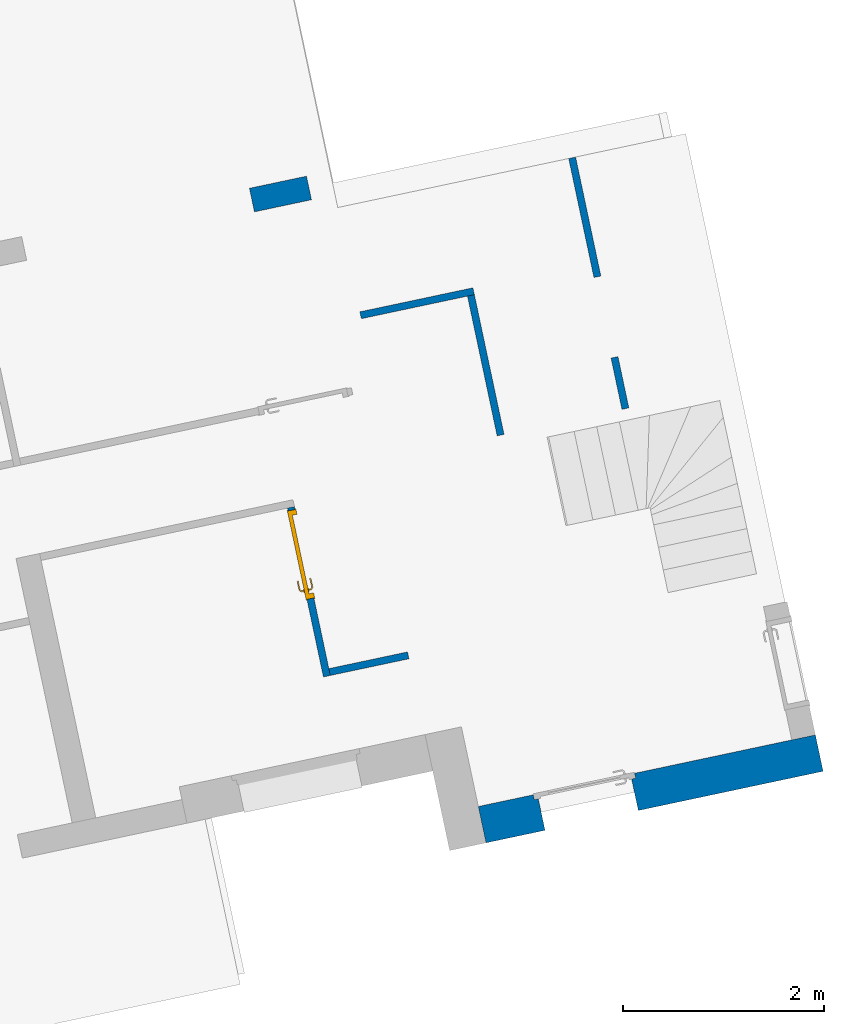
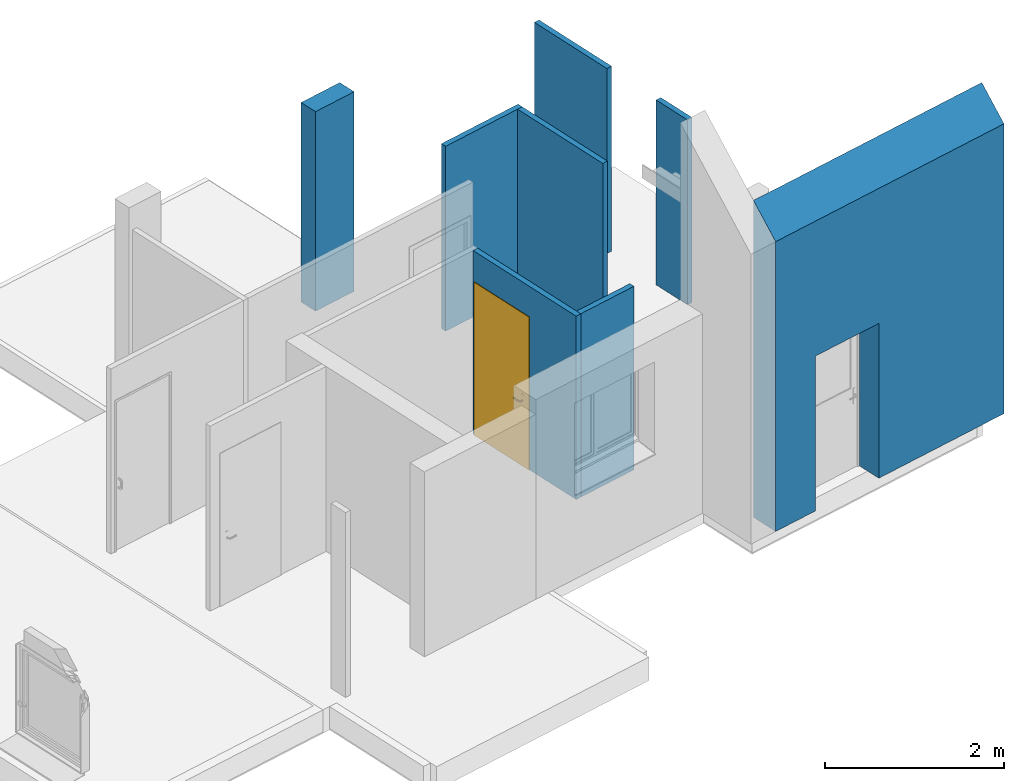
# One storey, part 4 of 11: 8 walls, 1 door, 2 openings.
"""IFC2X3 building model written with IfcOpenShell, lengths in centimetres."""

from ifc_helpers import new_model, entity, si_unit, converted_unit, derived_unit, direction, frame, frame_2d, origin, place, context, subcontext, project, spatial, polyline, rectangle, extrude, clip, bounded_halfspace, faceted_brep, source, transform, mapped, material, layer, layer_set, layer_usage, type_object, type_shapes, element, fill, save


model = new_model("IFC2X3")

# Units and contexts
model_context = context("Model", 3, precision=0.001, world=origin(), true_north=direction((6.12303176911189e-17, 1.0)))
body_context = subcontext(model_context, "Body", "Model", "MODEL_VIEW")
ifc_project = project(units=[si_unit("LENGTHUNIT", "METRE", prefix="CENTI"), si_unit("AREAUNIT", "SQUARE_METRE"), si_unit("VOLUMEUNIT", "CUBIC_METRE"), converted_unit("PLANEANGLEUNIT", "DEGREE", entity("IfcRatioMeasure", 0.0174532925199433), si_unit("PLANEANGLEUNIT", "RADIAN"), dimensions=[0, 0, 0, 0, 0, 0, 0]), si_unit("MASSUNIT", "GRAM", prefix="KILO"), derived_unit("MASSDENSITYUNIT", [(si_unit("MASSUNIT", "GRAM", prefix="KILO"), 1), (si_unit("LENGTHUNIT", "METRE"), -3)]), derived_unit("IONCONCENTRATIONUNIT", [(si_unit("MASSUNIT", "GRAM", prefix="KILO"), 1), (si_unit("LENGTHUNIT", "METRE"), -3)]), derived_unit("MOMENTOFINERTIAUNIT", [(si_unit("LENGTHUNIT", "METRE"), 4)]), si_unit("TIMEUNIT", "SECOND"), si_unit("FREQUENCYUNIT", "HERTZ"), si_unit("THERMODYNAMICTEMPERATUREUNIT", "DEGREE_CELSIUS"), derived_unit("THERMALTRANSMITTANCEUNIT", [(si_unit("MASSUNIT", "GRAM", prefix="KILO"), 1), (si_unit("THERMODYNAMICTEMPERATUREUNIT", "KELVIN"), -1), (si_unit("TIMEUNIT", "SECOND"), -3)]), derived_unit("THERMALCONDUCTANCEUNIT", [(si_unit("MASSUNIT", "GRAM", prefix="KILO"), 1), (si_unit("THERMODYNAMICTEMPERATUREUNIT", "KELVIN"), -1), (si_unit("TIMEUNIT", "SECOND"), -3), (si_unit("LENGTHUNIT", "METRE"), 1)]), derived_unit("VOLUMETRICFLOWRATEUNIT", [(si_unit("LENGTHUNIT", "METRE"), 3), (si_unit("TIMEUNIT", "SECOND"), -1)]), derived_unit("MASSFLOWRATEUNIT", [(si_unit("MASSUNIT", "GRAM", prefix="KILO"), 1), (si_unit("TIMEUNIT", "SECOND"), -1)]), derived_unit("ROTATIONALFREQUENCYUNIT", [(si_unit("TIMEUNIT", "SECOND"), -1)]), si_unit("ELECTRICCURRENTUNIT", "AMPERE"), si_unit("ELECTRICVOLTAGEUNIT", "VOLT"), si_unit("POWERUNIT", "WATT"), si_unit("FORCEUNIT", "NEWTON", prefix="KILO"), si_unit("ILLUMINANCEUNIT", "LUX"), si_unit("LUMINOUSFLUXUNIT", "LUMEN"), si_unit("LUMINOUSINTENSITYUNIT", "CANDELA"), derived_unit("USERDEFINED", [(si_unit("MASSUNIT", "GRAM", prefix="KILO"), -1), (si_unit("LENGTHUNIT", "METRE"), -2), (si_unit("TIMEUNIT", "SECOND"), 3), (si_unit("LUMINOUSFLUXUNIT", "LUMEN"), 1)]), derived_unit("USERDEFINED", [(si_unit("MASSUNIT", "GRAM", prefix="KILO"), 1), (si_unit("TIMEUNIT", "SECOND"), -3), (si_unit("LENGTHUNIT", "METRE"), 3), (si_unit("ELECTRICCURRENTUNIT", "AMPERE"), -2)]), derived_unit("SOUNDPOWERUNIT", [(si_unit("MASSUNIT", "GRAM", prefix="KILO"), 1), (si_unit("TIMEUNIT", "SECOND"), -3), (si_unit("LENGTHUNIT", "METRE"), 2)]), derived_unit("SOUNDPRESSUREUNIT", [(si_unit("MASSUNIT", "GRAM", prefix="KILO"), 1), (si_unit("LENGTHUNIT", "METRE"), -1), (si_unit("TIMEUNIT", "SECOND"), -2)]), derived_unit("LINEARVELOCITYUNIT", [(si_unit("LENGTHUNIT", "METRE"), 1), (si_unit("TIMEUNIT", "SECOND"), -1)]), si_unit("PRESSUREUNIT", "PASCAL"), derived_unit("USERDEFINED", [(si_unit("MASSUNIT", "GRAM", prefix="KILO"), 1), (si_unit("LENGTHUNIT", "METRE"), -2), (si_unit("TIMEUNIT", "SECOND"), -2)]), derived_unit("LINEARFORCEUNIT", [(si_unit("MASSUNIT", "GRAM", prefix="KILO"), 1), (si_unit("TIMEUNIT", "SECOND"), -2)]), derived_unit("PLANARFORCEUNIT", [(si_unit("MASSUNIT", "GRAM", prefix="KILO"), 1), (si_unit("LENGTHUNIT", "METRE"), -1), (si_unit("TIMEUNIT", "SECOND"), -2)]), derived_unit("SPECIFICHEATCAPACITYUNIT", [(si_unit("THERMODYNAMICTEMPERATUREUNIT", "KELVIN"), -1), (si_unit("LENGTHUNIT", "METRE"), 2), (si_unit("TIMEUNIT", "SECOND"), -2)]), derived_unit("HEATINGVALUEUNIT", [(si_unit("LENGTHUNIT", "METRE"), 2), (si_unit("TIMEUNIT", "SECOND"), -2)]), derived_unit("VAPORPERMEABILITYUNIT", [(si_unit("LENGTHUNIT", "METRE"), -1), (si_unit("TIMEUNIT", "SECOND"), 1)]), derived_unit("DYNAMICVISCOSITYUNIT", [(si_unit("MASSUNIT", "GRAM", prefix="KILO"), 1), (si_unit("TIMEUNIT", "SECOND"), -1), (si_unit("LENGTHUNIT", "METRE"), -1)]), derived_unit("THERMALEXPANSIONCOEFFICIENTUNIT", [(si_unit("THERMODYNAMICTEMPERATUREUNIT", "KELVIN"), -1)]), derived_unit("MODULUSOFELASTICITYUNIT", [(si_unit("MASSUNIT", "GRAM", prefix="KILO"), 1), (si_unit("LENGTHUNIT", "METRE"), -1), (si_unit("TIMEUNIT", "SECOND"), -2)]), derived_unit("ISOTHERMALMOISTURECAPACITYUNIT", [(si_unit("LENGTHUNIT", "METRE"), 3), (si_unit("MASSUNIT", "GRAM", prefix="KILO"), -1)]), derived_unit("MOISTUREDIFFUSIVITYUNIT", [(si_unit("TIMEUNIT", "SECOND"), -1), (si_unit("LENGTHUNIT", "METRE"), 2)])], contexts=[model_context])

# Site, building, storey
site_placement = place(None, frame((14083.8920177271, -6853.25409548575, 6900.0), z_axis=(0.0, 0.0, 1.0), x_axis=(0.978188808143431, 0.207717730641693, 0.0)))
site = spatial("IfcSite", under=ifc_project, at=site_placement, Name="Surface", CompositionType="ELEMENT")
building_placement = place(site_placement, origin())
building = spatial("IfcBuilding", under=site, at=building_placement, CompositionType="ELEMENT")
storey_placement = place(building_placement, frame((0.0, 0.0, 17.0)))
storey = spatial("IfcBuildingStorey", under=building, at=storey_placement, Name="Rez de chaussée", CompositionType="ELEMENT", Elevation=17.0000000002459)

# Wall
ifc_material_1 = material(Name="__ ENDUIT_Blanc")
ifc_layer_1 = layer(ifc_material_1, 2.0)
ifc_material_2 = material(Name="Béton, précoulé")
ifc_layer_2 = layer(ifc_material_2, 20.0)
ifc_layer_3 = layer(ifc_material_1, 2.0)
ifc_layer_set_1 = layer_set([ifc_layer_1, ifc_layer_2, ifc_layer_3], Name="Mur de base:*BRIQUE 24 (20 + INT 2 + EXT 2) (enduit 2 faces)")
ifc_layer_usage_1 = layer_usage(ifc_layer_set_1, "AXIS2", "NEGATIVE", 12.0)
wall_type_1 = type_object("IfcWallType", Name="Mur de base:*BRIQUE 24 (20 + INT 2 + EXT 2) (enduit 2 faces)", PredefinedType="STANDARD", material=ifc_layer_set_1)
wall_1_placement = place(storey_placement, frame((-7221.9551432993, 15438.9391445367, 0.0)))
element("IfcWallStandardCase", 1, at=wall_1_placement, inside=storey, type_object=wall_type_1, material=ifc_layer_usage_1, Name="Mur de base:*BRIQUE 24 (20 + INT 2 + EXT 2) (enduit 2 faces)", ObjectType="Mur de base:*BRIQUE 24 (20 + INT 2 + EXT 2) (enduit 2 faces)", context=body_context, shape_type="SweptSolid", body=[
    extrude(rectangle(XDim=57.9999999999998, YDim=24.0000000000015, at=frame_2d((28.9999999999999, 0.0), x_axis=(-1.0, 0.0))), origin(), (0.0, 0.0, 1.0), 271.999999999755),
])

# Wall, opening, door
ifc_material_3 = material(Name="__ BA 13")
ifc_layer_4 = layer(ifc_material_3, 7.0)
ifc_layer_set_2 = layer_set([ifc_layer_4], Name="Mur de base:*Cloison 72/48 cm")
ifc_layer_usage_2 = layer_usage(ifc_layer_set_2, "AXIS2", "NEGATIVE", 3.5)
wall_type_2 = type_object("IfcWallType", Name="Mur de base:*Cloison 72/48 cm", PredefinedType="STANDARD", material=ifc_layer_set_2)
wall_2_placement = place(storey_placement, frame((-7247.4551432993, 15131.6724778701, 0.0), z_axis=(0.0, 0.0, 1.0), x_axis=(0.0, -1.0, 0.0)))
wall_2 = element("IfcWallStandardCase", 2, at=wall_2_placement, inside=storey, type_object=wall_type_2, material=ifc_layer_usage_2, Name="Mur de base:*Cloison 72/48 cm", ObjectType="Mur de base:*Cloison 72/48 cm", context=body_context, shape_type="SweptSolid", body=[
    extrude(rectangle(XDim=171.846846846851, YDim=7.00000000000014, at=frame_2d((85.9234234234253, 0.0), x_axis=(1.0, 0.0))), origin(), (0.0, 0.0, 1.0), 250.0),
])
opening_1_placement = place(wall_2_placement, frame((92.9234234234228, 3.5, 0.0)))
opening_1 = element("IfcOpeningElement", 3, at=opening_1_placement, cuts=wall_2, Name="*Porte_alveolaire:Pp 83 x 204:1", ObjectType="Opening", context=body_context, shape_type="SweptSolid", body=[
    extrude(rectangle(XDim=207.5, YDim=89.9999999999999, at=frame_2d((103.75, 45.0), x_axis=(1.0, 0.0))), frame((0.0, 0.0, 0.0), z_axis=(0.0, -1.0, 0.0), x_axis=(0.0, 0.0, 1.0)), (0.0, 0.0, 1.0), 7.0),
])
ifc_material_4 = material(Name="<Unnamed>")
door_style = type_object("IfcDoorStyle", Name="*Porte_alveolaire:Pp 83 x 204", ConstructionType="NOTDEFINED", OperationType="NOTDEFINED", ParameterTakesPrecedence=False, Sizeable=False, material=ifc_material_4)
shared_shape = source(origin(), body_context, "Body", "Brep", [
    faceted_brep([(81.2025298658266, 3.69990393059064, 90.7780440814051), (80.7974701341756, 3.69990393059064, 90.7780440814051), (80.3999999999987, 3.69990393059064, 90.699999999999), (80.3999999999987, 3.69990393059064, 89.300000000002), (80.7974701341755, 3.69990393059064, 89.221955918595), (81.2025298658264, 3.69990393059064, 89.2219559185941), (81.6000000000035, 3.69990393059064, 89.2999999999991), (81.6000000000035, 3.69990393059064, 90.699999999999), (80.3999999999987, 5.94842438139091, 90.699999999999), (80.3999999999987, 5.94842438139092, 89.300000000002), (80.7974701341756, 6.11306190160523, 90.7780440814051), (81.2025298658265, 6.28084313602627, 90.7780440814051), (79.5838906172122, 7.89948238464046, 90.7780440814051), (79.4161093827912, 7.49442265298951, 90.7780440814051), (71.079312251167, 7.49442265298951, 90.7780440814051), (70.911531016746, 7.89948238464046, 90.7780440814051), (70.1451046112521, 7.13305597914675, 90.7780440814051), (70.431525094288, 6.84663549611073, 90.7780440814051), (81.6000000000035, 6.44548065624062, 90.699999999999), (81.6000000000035, 6.44548065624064, 89.2999999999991), (81.2025298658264, 6.28084313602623, 89.2219559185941), (80.7974701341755, 6.1130619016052, 89.221955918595), (79.4161093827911, 7.49442265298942, 89.221955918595), (79.5838906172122, 7.89948238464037, 89.2219559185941), (70.911531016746, 7.89948238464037, 89.221955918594), (71.079312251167, 7.49442265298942, 89.221955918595), (70.4315250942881, 6.84663549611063, 89.221955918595), (70.1451046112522, 7.13305597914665, 89.221955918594), (79.2514718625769, 7.09695251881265, 89.300000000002), (79.2514718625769, 7.09695251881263, 90.699999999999), (79.7485281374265, 8.29695251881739, 90.699999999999), (79.7485281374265, 8.29695251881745, 89.2999999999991), (75.2477108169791, 7.0969525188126, 90.699999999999), (71.2439497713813, 7.09695251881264, 90.699999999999), (71.2439497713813, 7.09695251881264, 89.300000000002), (75.2477108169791, 7.09695251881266, 89.300000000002), (75.247710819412, 7.71239668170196, 90.7878116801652), (74.7399422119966, 8.29695251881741, 90.699999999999), (70.7468934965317, 8.29695251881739, 90.699999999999), (75.7554791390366, 8.29695251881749, 89.2999999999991), (70.7468934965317, 8.29695251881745, 89.2999999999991), (75.2477107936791, 7.71239667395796, 89.2121883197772), (69.8640507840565, 7.41410980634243, 90.699999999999), (69.8640507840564, 7.41410980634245, 89.2999999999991), (70.7125789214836, 6.56558166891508, 89.300000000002), (70.7125789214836, 6.56558166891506, 90.699999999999)], [[[0, 1, 2, 3, 4, 5, 6, 7]], [[8, 9, 3, 2]], [[1, 10, 8, 2]], [[1, 0, 11, 12, 13, 10]], [[14, 15, 16, 17]], [[7, 18, 11, 0]], [[18, 7, 6, 19]], [[6, 5, 20, 19]], [[5, 4, 21, 22, 23, 20]], [[24, 25, 26, 27]], [[4, 3, 9, 21]], [[28, 9, 8, 29]], [[8, 10, 13, 29]], [[18, 30, 12, 11]], [[31, 30, 18, 19]], [[19, 20, 23, 31]], [[21, 9, 28, 22]], [[28, 29, 32, 33, 34, 35]], [[36, 32, 13]], [[37, 38, 15]], [[37, 12, 30]], [[36, 12, 37]], [[14, 32, 36]], [[36, 15, 14]], [[29, 13, 32]], [[32, 14, 33]], [[12, 36, 13]], [[15, 36, 37]], [[30, 31, 39, 40, 38, 37]], [[23, 41, 39]], [[24, 39, 41]], [[39, 31, 23]], [[39, 24, 40]], [[22, 35, 41]], [[41, 23, 22]], [[41, 35, 25]], [[35, 22, 28]], [[34, 25, 35]], [[24, 41, 25]], [[17, 16, 42, 43, 27, 26, 44, 45]], [[44, 34, 33, 45]], [[33, 14, 17, 45]], [[15, 38, 42, 16]], [[42, 38, 40, 43]], [[24, 27, 43, 40]], [[34, 44, 26, 25]]]),
    faceted_brep([(80.7974701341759, -1.30009606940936, 90.7780440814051), (81.2025298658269, -1.30009606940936, 90.7780440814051), (81.6000000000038, -1.30009606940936, 90.6999999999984), (81.6000000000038, -1.30009606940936, 89.2999999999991), (81.2025298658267, -1.30009606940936, 89.221955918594), (80.7974701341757, -1.30009606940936, 89.221955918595), (80.399999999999, -1.30009606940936, 89.3000000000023), (80.3999999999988, -1.30009606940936, 90.699999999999), (81.2025298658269, -3.90055361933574, 90.7780440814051), (81.600000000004, -4.06519113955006, 90.6999999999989), (80.7974701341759, -3.73277238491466, 90.7780440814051), (79.4298602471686, -5.10038227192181, 90.7780440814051), (79.5976414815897, -5.50544200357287, 90.7780440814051), (70.9142453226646, -5.50544200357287, 90.778044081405), (71.0820265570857, -5.10038227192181, 90.778044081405), (70.4342394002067, -4.45259511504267, 90.778044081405), (70.1478189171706, -4.73901559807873, 90.778044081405), (80.3999999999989, -3.56813486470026, 90.699999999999), (80.399999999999, -3.56813486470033, 89.3000000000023), (80.7974701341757, -3.73277238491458, 89.221955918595), (81.2025298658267, -3.90055361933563, 89.221955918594), (79.5976414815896, -5.5054420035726, 89.221955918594), (79.4298602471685, -5.10038227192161, 89.221955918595), (71.0820265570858, -5.10038227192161, 89.221955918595), (70.9142453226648, -5.50544200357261, 89.221955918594), (70.1478189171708, -4.73901559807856, 89.221955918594), (70.4342394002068, -4.45259511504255, 89.221955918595), (81.6000000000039, -4.06519113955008, 89.2999999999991), (79.7622790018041, -5.90291213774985, 90.6999999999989), (79.2652227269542, -4.70291213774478, 90.699999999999), (79.2652227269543, -4.70291213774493, 89.3000000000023), (79.762279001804, -5.90291213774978, 89.2999999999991), (75.2559433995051, -5.31837634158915, 90.7878115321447), (75.7692302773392, -5.90291213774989, 90.6999999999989), (70.7496078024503, -5.9029121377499, 90.6999999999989), (75.2559434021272, -4.70291213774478, 90.699999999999), (71.2466640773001, -4.70291213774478, 90.6999999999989), (75.2559436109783, -4.70291213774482, 89.3000000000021), (71.2466640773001, -4.70291213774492, 89.3000000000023), (75.2559434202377, -5.31837634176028, 89.2121884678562), (74.7426576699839, -5.90291213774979, 89.2999999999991), (70.7496078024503, -5.90291213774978, 89.2999999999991), (70.7152932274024, -4.17154128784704, 89.300000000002), (69.866765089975, -5.02006942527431, 89.2999999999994), (69.8667650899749, -5.02006942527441, 90.6999999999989), (70.7152932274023, -4.1715412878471, 90.6999999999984)], [[[0, 1, 2, 3, 4, 5, 6, 7]], [[2, 1, 8, 9]], [[1, 0, 10, 11, 12, 8]], [[13, 14, 15, 16]], [[0, 7, 17, 10]], [[18, 17, 7, 6]], [[5, 19, 18, 6]], [[5, 4, 20, 21, 22, 19]], [[23, 24, 25, 26]], [[3, 27, 20, 4]], [[9, 27, 3, 2]], [[9, 8, 12, 28]], [[10, 17, 29, 11]], [[30, 29, 17, 18]], [[18, 19, 22, 30]], [[20, 27, 31, 21]], [[28, 31, 27, 9]], [[12, 32, 33]], [[13, 33, 32]], [[33, 28, 12]], [[33, 13, 34]], [[11, 35, 32]], [[32, 12, 11]], [[32, 35, 14]], [[35, 11, 29]], [[36, 14, 35]], [[13, 32, 14]], [[30, 37, 38, 36, 35, 29]], [[39, 37, 22]], [[40, 41, 24]], [[40, 21, 31]], [[39, 21, 40]], [[23, 37, 39]], [[39, 24, 23]], [[30, 22, 37]], [[37, 23, 38]], [[21, 39, 22]], [[24, 39, 40]], [[31, 28, 33, 34, 41, 40]], [[42, 26, 25, 43, 44, 16, 15, 45]], [[13, 16, 44, 34]], [[36, 45, 15, 14]], [[42, 45, 36, 38]], [[38, 23, 26, 42]], [[24, 41, 43, 25]], [[44, 43, 41, 34]]]),
    faceted_brep([(83.0, 3.19990393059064, 77.0), (83.0, 3.19990393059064, 98.0), (82.0352761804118, 3.19990393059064, 98.3996016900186), (81.0, 3.19990393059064, 98.5358983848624), (79.9647238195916, 3.19990393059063, 98.3996016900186), (79.0, 3.19990393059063, 98.0), (79.0, 3.19990393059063, 77.0), (79.9647238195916, 3.19990393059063, 76.6003983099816), (81.0, 3.19990393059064, 76.4641016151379), (82.0352761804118, 3.19990393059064, 76.6003983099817), (81.0, 3.69990393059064, 98.5358983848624), (82.0352761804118, 3.69990393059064, 98.3996016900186), (83.0, 3.69990393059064, 98.0), (83.0, 3.69990393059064, 77.0), (82.0352761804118, 3.69990393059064, 76.6003983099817), (81.0, 3.69990393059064, 76.4641016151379), (79.9647238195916, 3.69990393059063, 76.6003983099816), (79.0, 3.69990393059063, 77.0), (79.0, 3.69990393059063, 98.0), (79.9647238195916, 3.69990393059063, 98.3996016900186)], [[[0, 1, 2, 3, 4, 5, 6, 7, 8, 9]], [[10, 11, 12, 13, 14, 15, 16, 17, 18, 19]], [[4, 19, 18, 5]], [[3, 10, 19, 4]], [[2, 11, 10, 3]], [[2, 1, 12, 11]], [[12, 1, 0, 13]], [[9, 14, 13, 0]], [[8, 15, 14, 9]], [[7, 16, 15, 8]], [[7, 6, 17, 16]], [[17, 6, 5, 18]]]),
    faceted_brep([(81.0, -1.30009606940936, 76.4641016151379), (82.0352761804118, -1.30009606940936, 76.6003983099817), (83.0, -1.30009606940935, 77.0), (83.0, -1.30009606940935, 98.0), (82.0352761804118, -1.30009606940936, 98.3996016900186), (81.0, -1.30009606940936, 98.5358983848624), (79.9647238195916, -1.30009606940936, 98.3996016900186), (79.0, -1.30009606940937, 98.0), (79.0, -1.30009606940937, 77.0), (79.9647238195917, -1.30009606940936, 76.6003983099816), (83.0, -0.800096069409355, 98.0), (83.0, -0.800096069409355, 77.0), (82.0352761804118, -0.800096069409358, 76.6003983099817), (81.0, -0.800096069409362, 76.4641016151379), (79.9647238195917, -0.800096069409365, 76.6003983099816), (79.0, -0.800096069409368, 77.0), (79.0, -0.800096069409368, 98.0), (79.9647238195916, -0.800096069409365, 98.3996016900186), (81.0, -0.800096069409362, 98.5358983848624), (82.0352761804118, -0.800096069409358, 98.3996016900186)], [[[0, 1, 2, 3, 4, 5, 6, 7, 8, 9]], [[10, 11, 12, 13, 14, 15, 16, 17, 18, 19]], [[1, 12, 11, 2]], [[0, 13, 12, 1]], [[9, 14, 13, 0]], [[9, 8, 15, 14]], [[15, 8, 7, 16]], [[6, 17, 16, 7]], [[5, 18, 17, 6]], [[4, 19, 18, 5]], [[4, 3, 10, 19]], [[10, 3, 2, 11]]]),
    faceted_brep([(90.0, -9.60694093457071e-05, 0.0), (91.0, -9.60694093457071e-05, 0.0), (91.0, -0.800096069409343, 0.0), (86.5000000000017, -0.800096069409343, 0.0), (86.5000000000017, 3.19990393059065, 0.0), (85.0, 3.19990393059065, 0.0), (85.0, 7.79990393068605, 0.0), (91.0, 7.79990393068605, 0.0), (91.0, 6.99990393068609, 0.0), (90.0, 6.99990393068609, 0.0), (90.0, 6.99990393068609, 207.5), (90.0, -9.60694093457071e-05, 207.5), (91.0, 6.99990393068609, 208.5), (-1.0, 6.99990393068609, 208.5), (-1.0, 6.99990393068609, 0.0), (0.0, 6.99990393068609, 0.0), (0.0, 6.99990393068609, 207.5), (91.0, 7.79990393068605, 208.5), (85.0, 7.79990393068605, 202.500000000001), (5.0, 7.79990393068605, 202.500000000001), (5.0, 7.79990393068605, 0.0), (-1.0, 7.79990393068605, 0.0), (-1.0, 7.79990393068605, 208.5), (85.0, 3.19990393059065, 202.500000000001), (86.5000000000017, 3.19990393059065, 204.0), (3.50000000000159, 3.19990393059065, 204.0), (3.50000000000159, 3.19990393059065, 0.0), (5.0, 3.19990393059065, 0.0), (5.0, 3.19990393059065, 202.500000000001), (86.5000000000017, -0.800096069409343, 204.0), (91.0, -0.800096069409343, 208.5), (-1.0, -0.800096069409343, 208.5), (-1.0, -0.800096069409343, 0.0), (3.50000000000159, -0.800096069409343, 0.0), (3.50000000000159, -0.800096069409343, 204.0), (91.0, -9.60694093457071e-05, 208.5), (0.0, -9.60694093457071e-05, 207.5), (0.0, -9.60694093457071e-05, 0.0), (-1.0, -9.60694093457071e-05, 0.0), (-1.0, -9.60694093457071e-05, 208.5)], [[[0, 1, 2, 3, 4, 5, 6, 7, 8, 9]], [[9, 10, 11, 0]], [[8, 12, 13, 14, 15, 16, 10, 9]], [[7, 17, 12, 8]], [[6, 18, 19, 20, 21, 22, 17, 7]], [[5, 23, 18, 6]], [[4, 24, 25, 26, 27, 28, 23, 5]], [[3, 29, 24, 4]], [[2, 30, 31, 32, 33, 34, 29, 3]], [[1, 35, 30, 2]], [[0, 11, 36, 37, 38, 39, 35, 1]], [[16, 15, 37, 36]], [[37, 15, 14, 21, 20, 27, 26, 33, 32, 38]], [[22, 21, 14, 13]], [[28, 27, 20, 19]], [[34, 33, 26, 25]], [[39, 38, 32, 31]], [[10, 16, 36, 11]], [[17, 22, 13, 12]], [[23, 28, 19, 18]], [[29, 34, 25, 24]], [[35, 39, 31, 30]]]),
    faceted_brep([(86.5000000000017, -0.800096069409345, 204.0), (3.50000000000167, -0.800096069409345, 204.0), (3.50000000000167, -0.800096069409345, 0.0), (86.5000000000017, -0.800096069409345, 0.0), (86.5000000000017, 3.19990393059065, 204.0), (86.5000000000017, 3.19990393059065, 0.0), (3.50000000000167, 3.19990393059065, 0.0), (3.50000000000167, 3.19990393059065, 204.0)], [[[0, 1, 2, 3]], [[4, 5, 6, 7]], [[3, 5, 4, 0]], [[2, 6, 5, 3]], [[1, 7, 6, 2]], [[0, 4, 7, 1]]]),
])
type_shapes(door_style, [shared_shape])
door_placement = place(opening_1_placement, frame((-90.0, -6.99990393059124, 0.0)))
door = element("IfcDoor", 4, at=door_placement, inside=storey, type_object=door_style, material=ifc_material_4, Name="*Porte_alveolaire:Pp 83 x 204", ObjectType="*Porte_alveolaire:Pp 83 x 204", OverallHeight=207.5, OverallWidth=90.0000000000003, context=body_context, shape_type="MappedRepresentation", body=[
    mapped(shared_shape, transform((0.0, 0.0, 0.0), scale=1.0)),
])
fill(opening_1, door)

# Walls
wall_3_placement = place(storey_placement, frame((-7243.9551432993, 14963.3256310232, 0.0)))
element("IfcWallStandardCase", 5, at=wall_3_placement, inside=storey, type_object=wall_type_2, material=ifc_layer_usage_2, Name="Mur de base:*Cloison 72/48 cm", ObjectType="Mur de base:*Cloison 72/48 cm", context=body_context, shape_type="SweptSolid", body=[
    extrude(rectangle(XDim=79.9999999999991, YDim=6.99999999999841, at=frame_2d((39.9999999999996, 0.0), x_axis=(-1.0, 0.0))), origin(), (0.0, 0.0, 1.0), 250.0),
])
wall_4_placement = place(storey_placement, frame((-7139.9551432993, 15304.3256310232, 0.0)))
element("IfcWallStandardCase", 6, at=wall_4_placement, inside=storey, type_object=wall_type_2, material=ifc_layer_usage_2, Name="Mur de base:*Cloison 72/48 cm", ObjectType="Mur de base:*Cloison 72/48 cm", context=body_context, shape_type="SweptSolid", body=[
    extrude(rectangle(XDim=115.000000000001, YDim=6.99999999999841, at=frame_2d((57.5000000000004, 0.0), x_axis=(-1.0, 0.0))), origin(), (0.0, 0.0, 1.0), 251.999999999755),
])
wall_5_placement = place(storey_placement, frame((-7028.4551432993, 15300.8256310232, 0.0), z_axis=(0.0, 0.0, 1.0), x_axis=(0.0, -1.0, 0.0)))
element("IfcWallStandardCase", 7, at=wall_5_placement, inside=storey, type_object=wall_type_2, material=ifc_layer_usage_2, Name="Mur de base:*Cloison 72/48 cm", ObjectType="Mur de base:*Cloison 72/48 cm", context=body_context, shape_type="SweptSolid", body=[
    extrude(rectangle(XDim=142.158286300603, YDim=7.00000000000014, at=frame_2d((71.0791431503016, 0.0), x_axis=(-1.0, 0.0))), origin(), (0.0, 0.0, 1.0), 251.999999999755),
])
wall_6_placement = place(storey_placement, frame((-6901.4551432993, 15413.8256310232, 0.0), z_axis=(0.0, 0.0, 1.0), x_axis=(0.0, -1.0, 0.0)))
element("IfcWallStandardCase", 8, at=wall_6_placement, inside=storey, type_object=wall_type_2, material=ifc_layer_usage_2, Name="Mur de base:*Cloison 72/48 cm", ObjectType="Mur de base:*Cloison 72/48 cm", context=body_context, shape_type="SweptSolid", body=[
    extrude(rectangle(XDim=121.0, YDim=7.00000000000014, at=frame_2d((60.5000000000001, 0.0), x_axis=(-1.0, 0.0))), origin(), (0.0, 0.0, 1.0), 251.999999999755),
])
wall_7_placement = place(storey_placement, frame((-6901.4551432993, 15210.8256310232, 0.0), z_axis=(0.0, 0.0, 1.0), x_axis=(0.0, -1.0, 0.0)))
element("IfcWallStandardCase", 9, at=wall_7_placement, inside=storey, type_object=wall_type_2, material=ifc_layer_usage_2, Name="Mur de base:*Cloison 72/48 cm", ObjectType="Mur de base:*Cloison 72/48 cm", context=body_context, shape_type="SweptSolid", body=[
    extrude(rectangle(XDim=52.1582863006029, YDim=7.00000000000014, at=frame_2d((26.0791431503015, 0.0), x_axis=(-1.0, 0.0))), origin(), (0.0, 0.0, 1.0), 251.999999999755),
])

# Wall, opening
ifc_material_5 = material(Name="__ PIERRE______________________TEST")
ifc_layer_5 = layer(ifc_material_5, 2.0)
ifc_material_6 = material(Name="__ BETON_parpaings")
ifc_layer_6 = layer(ifc_material_6, 20.0)
ifc_material_7 = material(Name="__ ISOLANT (pat 1)")
ifc_layer_7 = layer(ifc_material_7, 13.0)
ifc_layer_8 = layer(ifc_material_1, 2.0)
ifc_layer_set_3 = layer_set([ifc_layer_5, ifc_layer_6, ifc_layer_7, ifc_layer_8], Name="Mur de base:*BRIQUE 37 (20 +INT 13+2 + EXT 2) (Iso+BA13)(parement)")
ifc_layer_usage_3 = layer_usage(ifc_layer_set_3, "AXIS2", "POSITIVE", -18.5)
wall_type_3 = type_object("IfcWallType", Name="Mur de base:*BRIQUE 37 (20 +INT 13+2 + EXT 2) (Iso+BA13)(parement)", PredefinedType="STANDARD", material=ifc_layer_set_3)
wall_8_placement = place(storey_placement, frame((-7126.9551432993, 14783.1724778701, 0.0)))
wall_8 = element("IfcWallStandardCase", 10, at=wall_8_placement, inside=storey, type_object=wall_type_3, material=ifc_layer_usage_3, Name="Mur de base:*BRIQUE 37 (20 +INT 13+2 + EXT 2) (Iso+BA13)(parement)", ObjectType="Mur de base:*BRIQUE 37 (20 +INT 13+2 + EXT 2) (Iso+BA13)(parement)", context=body_context, shape_type="Clipping", body=[
    clip(extrude(rectangle(XDim=342.999999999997, YDim=37.0000000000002, at=frame_2d((171.499999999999, -1.14397380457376e-12), x_axis=(1.0, 0.0))), origin(), (0.0, 0.0, 1.0), 431.999999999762), bounded_halfspace(frame((0.0, -18.500000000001, 395.0), z_axis=(0.0, -0.707106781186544, 0.707106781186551), x_axis=(1.0, 0.0, 0.0)), False, frame((0.0, -18.500000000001, 395.0)), polyline([(0.0, 0.0), (343.0, 0.0), (343.0, 37.0), (0.0, 37.0), (0.0, 0.0)]))),
])
opening_2_placement = place(wall_8_placement, frame((56.0, -48.5000000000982, 0.0)))
element("IfcOpeningElement", 11, at=opening_2_placement, cuts=wall_8, Name="Mur de base:*BRIQUE 37 (20 +INT 13+2 + EXT 2) (Iso+BA13)(parement)", ObjectType="Opening", context=body_context, shape_type="Brep", body=[
    faceted_brep([(4.0, 97.0, 211.0), (4.0, 67.0, 211.0), (99.0, 67.0, 211.0), (99.0, 97.0, 211.0), (4.0, 0.0, 0.0), (4.0, 62.0, 0.0), (0.0, 62.0, 0.0), (0.0, 67.0, 0.0), (4.0, 67.0, 0.0), (4.0, 97.0, 0.0), (99.0, 97.0, 0.0), (99.0, 67.0, 0.0), (103.0, 67.0, 0.0), (103.0, 62.0, 0.0), (99.0, 62.0, 0.0), (99.0, 0.0, 0.0), (4.0, 0.0, 211.0), (99.0, 0.0, 211.0), (4.0, 62.0, 211.0), (0.0, 67.0, 215.0), (103.0, 67.0, 215.0), (103.0, 62.0, 215.0), (0.0, 62.0, 215.0), (99.0, 62.0, 211.0)], [[[0, 1, 2, 3]], [[4, 5, 6, 7, 8, 9, 10, 11, 12, 13, 14, 15]], [[16, 4, 15, 17]], [[3, 2, 11, 10]], [[3, 10, 9, 0]], [[16, 18, 5, 4]], [[11, 2, 1, 8, 7, 19, 20, 12]], [[12, 20, 21, 13]], [[13, 21, 22, 6, 5, 18, 23, 14]], [[19, 22, 21, 20]], [[7, 6, 22, 19]], [[9, 8, 1, 0]], [[15, 14, 23, 17]], [[17, 23, 18, 16]]]),
])

save(model, "model.ifc")
